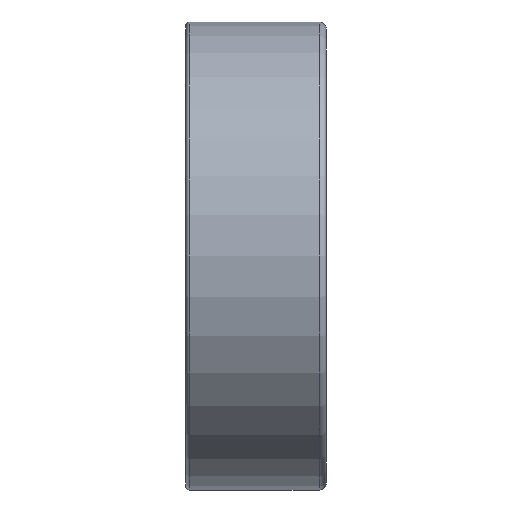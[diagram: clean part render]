
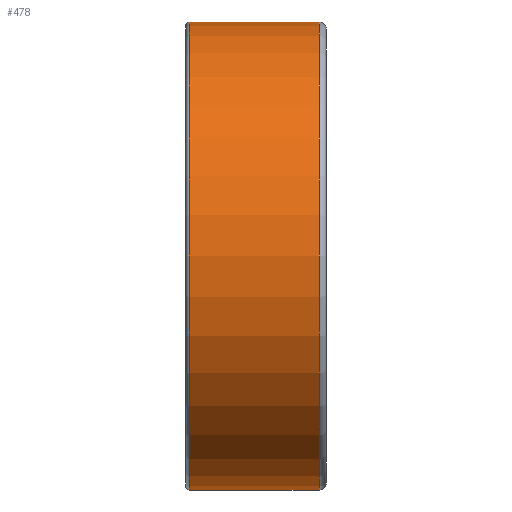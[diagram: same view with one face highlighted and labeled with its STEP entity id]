
A CAD part, front view. The second image highlights one B-rep face of the part: STEP entity #478.
In plain terms, the highlighted cylindrical face has radius 20 mm (diameter 40 mm), a full revolution.
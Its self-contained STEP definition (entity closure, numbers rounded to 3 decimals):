
#98=CYLINDRICAL_SURFACE($,#534,20.);
#110=FACE_OUTER_BOUND($,#211,.T.);
#141=FACE_BOUND($,#212,.T.);
#211=EDGE_LOOP($,(#401));
#212=EDGE_LOOP($,(#402));
#282=CIRCLE($,#533,20.);
#283=CIRCLE($,#535,20.);
#308=VERTEX_POINT($,#767);
#309=VERTEX_POINT($,#770);
#349=EDGE_CURVE($,#308,#308,#282,.T.);
#350=EDGE_CURVE($,#309,#309,#283,.T.);
#401=ORIENTED_EDGE($,*,*,#349,.T.);
#402=ORIENTED_EDGE($,*,*,#350,.F.);
#478=ADVANCED_FACE($,(#110,#141),#98,.T.);
#533=AXIS2_PLACEMENT_3D($,#768,#632,#633);
#534=AXIS2_PLACEMENT_3D($,#769,#634,#635);
#535=AXIS2_PLACEMENT_3D($,#771,#636,#637);
#632=DIRECTION('center_axis',(1.,0.,0.));
#633=DIRECTION('ref_axis',(0.,0.,-1.));
#634=DIRECTION('center_axis',(1.,0.,0.));
#635=DIRECTION('ref_axis',(0.,1.,0.));
#636=DIRECTION('center_axis',(1.,0.,0.));
#637=DIRECTION('ref_axis',(0.,0.,-1.));
#767=CARTESIAN_POINT('',(-5.4,20.,0.));
#768=CARTESIAN_POINT('Origin',(-5.4,0.,0.));
#769=CARTESIAN_POINT('Origin',(0.15,0.,
0.));
#770=CARTESIAN_POINT('',(5.7,20.,0.));
#771=CARTESIAN_POINT('Origin',(5.7,0.,0.));
